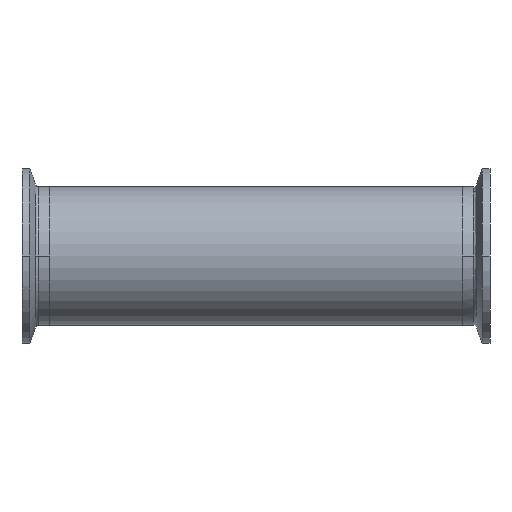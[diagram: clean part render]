
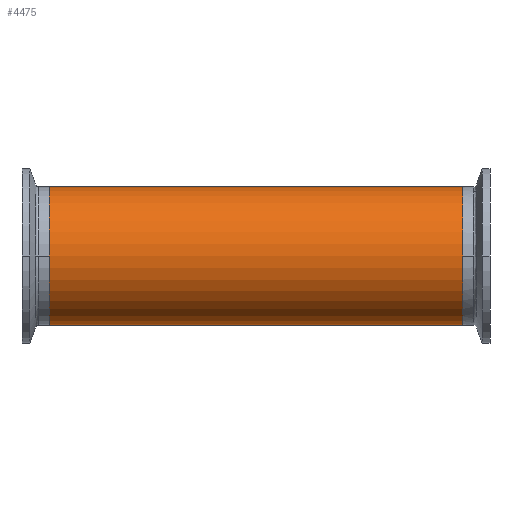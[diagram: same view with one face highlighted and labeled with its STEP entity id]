
A CAD part, front view. The second image highlights one B-rep face of the part: STEP entity #4475.
In plain terms, the highlighted cylindrical face has radius 25.4 mm (diameter 50.8 mm), a partial arc.
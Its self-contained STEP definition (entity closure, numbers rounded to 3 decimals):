
#12 = ORIENTED_EDGE ( 'NONE', *, *, #796, .T. ) ;
#36 = DIRECTION ( 'NONE',  ( -1., 0., 0. ) ) ;
#83 = DIRECTION ( 'NONE',  ( 0., 0., 1. ) ) ;
#123 = EDGE_CURVE ( 'NONE', #1698, #1194, #4332, .T. ) ;
#347 = CYLINDRICAL_SURFACE ( 'NONE', #3332, 25.4 ) ;
#712 = EDGE_LOOP ( 'NONE', ( #3061, #1013, #12, #3036 ) ) ;
#796 = EDGE_CURVE ( 'NONE', #1774, #1698, #4402, .T. ) ;
#812 = CARTESIAN_POINT ( 'NONE',  ( 147.542, 0., -25.4 ) ) ;
#1013 = ORIENTED_EDGE ( 'NONE', *, *, #3817, .T. ) ;
#1194 = VERTEX_POINT ( 'NONE', #3612 ) ;
#1271 = VECTOR ( 'NONE', #36, 1000. ) ;
#1352 = FACE_OUTER_BOUND ( 'NONE', #712, .T. ) ;
#1526 = DIRECTION ( 'NONE',  ( 0., 0., 1. ) ) ;
#1698 = VERTEX_POINT ( 'NONE', #3331 ) ;
#1774 = VERTEX_POINT ( 'NONE', #3389 ) ;
#1939 = DIRECTION ( 'NONE',  ( -1., 0., 0. ) ) ;
#2211 = DIRECTION ( 'NONE',  ( 0., 0., 1. ) ) ;
#2316 = VERTEX_POINT ( 'NONE', #2908 ) ;
#2335 = DIRECTION ( 'NONE',  ( 1., 0., 0. ) ) ;
#2372 = DIRECTION ( 'NONE',  ( -1., 0., 0. ) ) ;
#2414 = LINE ( 'NONE', #812, #1271 ) ;
#2507 = AXIS2_PLACEMENT_3D ( 'NONE', #2723, #2335, #2211 ) ;
#2723 = CARTESIAN_POINT ( 'NONE',  ( -75.7, 0., 0. ) ) ;
#2908 = CARTESIAN_POINT ( 'NONE',  ( 75.7, 0., -25.4 ) ) ;
#3036 = ORIENTED_EDGE ( 'NONE', *, *, #123, .T. ) ;
#3061 = ORIENTED_EDGE ( 'NONE', *, *, #3762, .F. ) ;
#3186 = CIRCLE ( 'NONE', #4882, 25.4 ) ;
#3331 = CARTESIAN_POINT ( 'NONE',  ( -75.7, 0., 25.4 ) ) ;
#3332 = AXIS2_PLACEMENT_3D ( 'NONE', #4190, #1939, #1526 ) ;
#3389 = CARTESIAN_POINT ( 'NONE',  ( 75.7, 0., 25.4 ) ) ;
#3405 = VECTOR ( 'NONE', #4030, 1000. ) ;
#3612 = CARTESIAN_POINT ( 'NONE',  ( -75.7, 0., -25.4 ) ) ;
#3762 = EDGE_CURVE ( 'NONE', #2316, #1194, #2414, .T. ) ;
#3817 = EDGE_CURVE ( 'NONE', #2316, #1774, #3186, .T. ) ;
#4030 = DIRECTION ( 'NONE',  ( -1., 0., 0. ) ) ;
#4190 = CARTESIAN_POINT ( 'NONE',  ( 147.542, 0., 0. ) ) ;
#4332 = CIRCLE ( 'NONE', #2507, 25.4 ) ;
#4402 = LINE ( 'NONE', #4459, #3405 ) ;
#4459 = CARTESIAN_POINT ( 'NONE',  ( 147.542, 0., 25.4 ) ) ;
#4475 = ADVANCED_FACE ( 'NONE', ( #1352 ), #347, .T. ) ;
#4654 = CARTESIAN_POINT ( 'NONE',  ( 75.7, 0., 0. ) ) ;
#4882 = AXIS2_PLACEMENT_3D ( 'NONE', #4654, #2372, #83 ) ;
